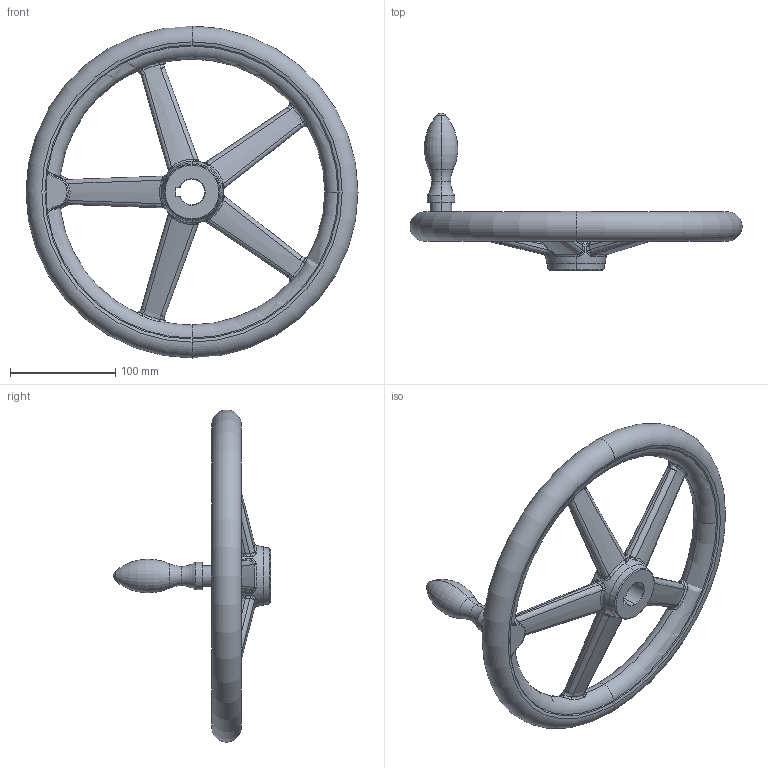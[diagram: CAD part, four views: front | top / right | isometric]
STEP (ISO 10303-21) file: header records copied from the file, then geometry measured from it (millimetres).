
FILE_DESCRIPTION (( 'STEP AP203' ), '1' );
FILE_NAME ('din950_d3_315x24.step', '2010-03-23T10:08:00', ( '_' ), ( '_' ), 'SwSTEP 2.0', 'SolidWorks 2010', '' );
FILE_SCHEMA (( 'CONFIG_CONTROL_DESIGN' ));
Length unit declared in the file: millimetre
Products named in the file (1): din950_d3_315x24
Bounding box: 314.89 x 149.5 x 314.89 mm (x, y, z)
Volume: 895142 mm3; surface area: 135358.5 mm2
Topology: 1 solids, 1 shells, 286 faces, 711 edges, 374 vertices
Faces by surface type: bspline 208, torus 26, plane 19, cone 18, cylinder 13, sphere 2
Entity records: 51980 total; most frequent: CARTESIAN_POINT 46654, ORIENTED_EDGE 1334, DIRECTION 690, EDGE_CURVE 667, B_SPLINE_CURVE_WITH_KNOTS 383, VERTEX_POINT 374, AXIS2_PLACEMENT_3D 327, EDGE_LOOP 289
